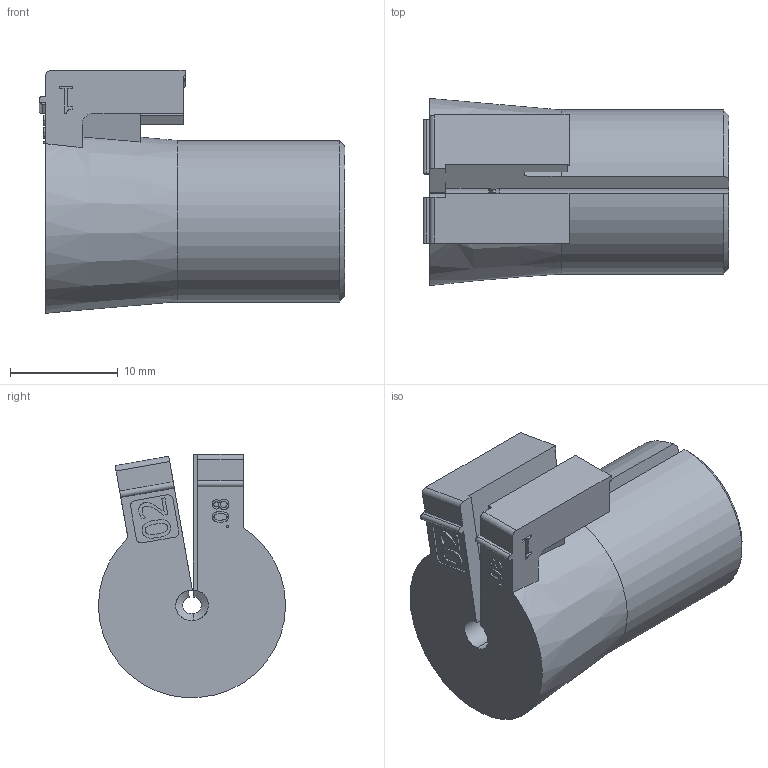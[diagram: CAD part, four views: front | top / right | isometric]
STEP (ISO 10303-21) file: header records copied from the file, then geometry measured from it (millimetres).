
FILE_DESCRIPTION(/* description */ (''),/* implementation_level */ '2;1');
FILE_NAME(/* name */ 'C:\SapWorkDir\Inventor\MP1\ConvertTempPath\87_12_121345_00_A_220530_KDT-X 02.stp',/* time_stamp */ '2022-06-01T06:47:54+02:00',/* author */ ('BAUER'),/* organization */ (''),/* preprocessor_version */ 'ST-DEVELOPER v16.13',/* originating_system */ 'Autodesk Inventor 2018',/* authorisation */ '');
FILE_SCHEMA (('AUTOMOTIVE_DESIGN { 1 0 10303 214 3 1 1 }'));
Length unit declared in the file: millimetre
Products named in the file (1): 121345
Bounding box: 28.4 x 17.38 x 22.57 mm (x, y, z)
Volume: 5572.5 mm3; surface area: 2837.2 mm2
Topology: 1 solids, 1 shells, 148 faces, 399 edges, 264 vertices
Faces by surface type: plane 70, bspline 50, cylinder 20, cone 8
Entity records: 4986 total; most frequent: CARTESIAN_POINT 1478, ORIENTED_EDGE 798, DIRECTION 545, EDGE_CURVE 399, VERTEX_POINT 264, LINE 239, VECTOR 239, EDGE_LOOP 159
